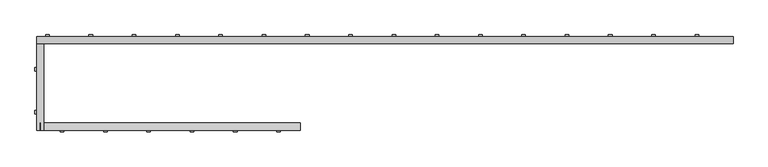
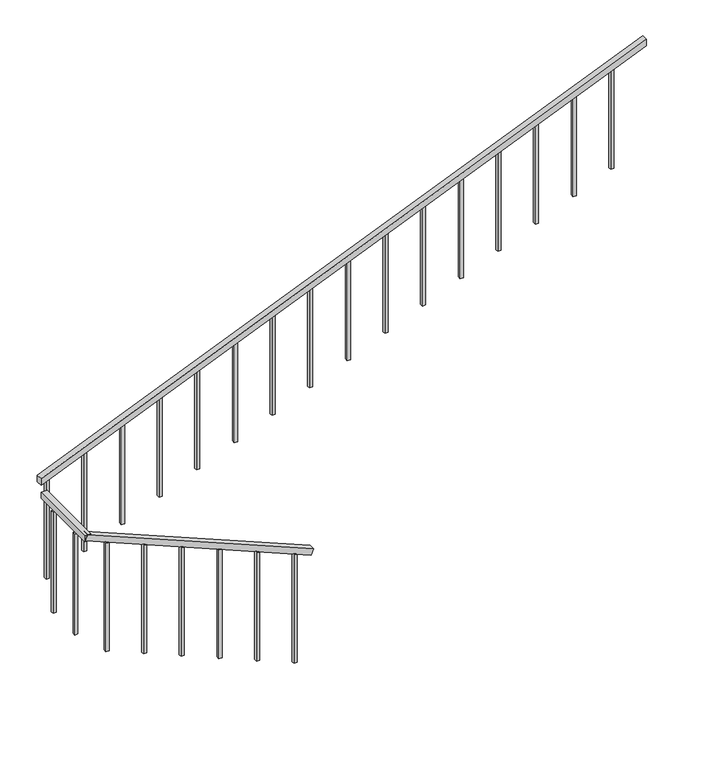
"""IFC4 building model written with IfcOpenShell, lengths in millimetres: railing geometry, ADSK_Стандартное_h 900 Поручень квадратный без направляющих."""

from ifc_helpers import new_model, si_unit, frame, origin, place, context, project, spatial, polyline, outline, extrude, source, transform, mapped, element, save


def railing_34ed4170(model_context):
    return source(origin(), model_context, "Body", "SweptSolid", [
        extrude(outline(polyline([(0.0, -50.0), (0.0, 0.0), (1950.0, 0.0), (1950.0, -50.0), (0.0, -50.0)])), frame((14808.0452287, 4259.838226, -2021.1538462), z_axis=(0.38461538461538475, 0.0, 0.923076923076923), x_axis=(-0.923076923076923, 0.0, 0.38461538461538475)), (0.0, 0.0, 1.0), 50.0),
        extrude(outline(polyline([(13051.8759979, 4259.838226), (13001.8759979, 4259.838226), (13001.8759979, 4860.0370105), (13051.8759979, 4860.0370105), (13051.8759979, 4259.838226)])), frame((0.0, 0.0, -1275.0), z_axis=(0.0, 0.0, 1.0), x_axis=(1.0, 0.0, 0.0)), (0.0, 0.0, 1.0), 50.0),
        extrude(outline(polyline([(-1110.5833333, 13001.8759979), (-1164.75, 13001.8759979), (845.8333333, 17827.2759979), (900.0, 17827.2759979), (-1110.5833333, 13001.8759979)])), frame((0.0, 4860.0370105, 0.0), z_axis=(0.0, 1.0, 0.0), x_axis=(0.0, 0.0, 1.0)), (0.0, 0.0, 1.0), 50.0),
        extrude(outline(polyline([(740.2088398, 17563.7772133), (-125.0, 17563.7772133), (-125.0, 17588.7772133), (750.6255064, 17588.7772133), (740.2088398, 17563.7772133)])), frame((0.0, 4897.5370105, 0.0), z_axis=(0.0, 1.0, 0.0), x_axis=(0.0, 0.0, 1.0)), (0.0, 0.0, 1.0), 25.0),
        extrude(outline(polyline([(615.2088398, 17263.7772133), (-250.0, 17263.7772133), (-250.0, 17288.7772133), (625.6255064, 17288.7772133), (615.2088398, 17263.7772133)])), frame((0.0, 4897.5370105, 0.0), z_axis=(0.0, 1.0, 0.0), x_axis=(0.0, 0.0, 1.0)), (0.0, 0.0, 1.0), 25.0),
        extrude(outline(polyline([(490.2088398, 16963.7772133), (-375.0, 16963.7772133), (-375.0, 16988.7772133), (500.6255064, 16988.7772133), (490.2088398, 16963.7772133)])), frame((0.0, 4897.5370105, 0.0), z_axis=(0.0, 1.0, 0.0), x_axis=(0.0, 0.0, 1.0)), (0.0, 0.0, 1.0), 25.0),
        extrude(outline(polyline([(365.2088398, 16663.7772133), (-500.0, 16663.7772133), (-500.0, 16688.7772133), (375.6255064, 16688.7772133), (365.2088398, 16663.7772133)])), frame((0.0, 4897.5370105, 0.0), z_axis=(0.0, 1.0, 0.0), x_axis=(0.0, 0.0, 1.0)), (0.0, 0.0, 1.0), 25.0),
        extrude(outline(polyline([(240.2088398, 16363.7772133), (-625.0, 16363.7772133), (-625.0, 16388.7772133), (250.6255064, 16388.7772133), (240.2088398, 16363.7772133)])), frame((0.0, 4897.5370105, 0.0), z_axis=(0.0, 1.0, 0.0), x_axis=(0.0, 0.0, 1.0)), (0.0, 0.0, 1.0), 25.0),
        extrude(outline(polyline([(115.2088398, 16063.7772133), (-750.0, 16063.7772133), (-750.0, 16088.7772133), (125.6255064, 16088.7772133), (115.2088398, 16063.7772133)])), frame((0.0, 4897.5370105, 0.0), z_axis=(0.0, 1.0, 0.0), x_axis=(0.0, 0.0, 1.0)), (0.0, 0.0, 1.0), 25.0),
        extrude(outline(polyline([(-9.7911602, 15763.7772133), (-875.0, 15763.7772133), (-875.0, 15788.7772133), (0.6255064, 15788.7772133), (-9.7911602, 15763.7772133)])), frame((0.0, 4897.5370105, 0.0), z_axis=(0.0, 1.0, 0.0), x_axis=(0.0, 0.0, 1.0)), (0.0, 0.0, 1.0), 25.0),
        extrude(outline(polyline([(-134.7911602, 15463.7772133), (-1000.0, 15463.7772133), (-1000.0, 15488.7772133), (-124.3744936, 15488.7772133), (-134.7911602, 15463.7772133)])), frame((0.0, 4897.5370105, 0.0), z_axis=(0.0, 1.0, 0.0), x_axis=(0.0, 0.0, 1.0)), (0.0, 0.0, 1.0), 25.0),
        extrude(outline(polyline([(-259.7911602, 15163.7772133), (-1125.0, 15163.7772133), (-1125.0, 15188.7772133), (-249.3744936, 15188.7772133), (-259.7911602, 15163.7772133)])), frame((0.0, 4897.5370105, 0.0), z_axis=(0.0, 1.0, 0.0), x_axis=(0.0, 0.0, 1.0)), (0.0, 0.0, 1.0), 25.0),
        extrude(outline(polyline([(-384.7911602, 14863.7772133), (-1250.0, 14863.7772133), (-1250.0, 14888.7772133), (-374.3744936, 14888.7772133), (-384.7911602, 14863.7772133)])), frame((0.0, 4897.5370105, 0.0), z_axis=(0.0, 1.0, 0.0), x_axis=(0.0, 0.0, 1.0)), (0.0, 0.0, 1.0), 25.0),
        extrude(outline(polyline([(-509.7911602, 14563.7772133), (-1375.0, 14563.7772133), (-1375.0, 14588.7772133), (-499.3744936, 14588.7772133), (-509.7911602, 14563.7772133)])), frame((0.0, 4897.5370105, 0.0), z_axis=(0.0, 1.0, 0.0), x_axis=(0.0, 0.0, 1.0)), (0.0, 0.0, 1.0), 25.0),
        extrude(outline(polyline([(-634.7911602, 14263.7772133), (-1500.0, 14263.7772133), (-1500.0, 14288.7772133), (-624.3744936, 14288.7772133), (-634.7911602, 14263.7772133)])), frame((0.0, 4897.5370105, 0.0), z_axis=(0.0, 1.0, 0.0), x_axis=(0.0, 0.0, 1.0)), (0.0, 0.0, 1.0), 25.0),
        extrude(outline(polyline([(-759.7911602, 13963.7772133), (-1625.0, 13963.7772133), (-1625.0, 13988.7772133), (-749.3744936, 13988.7772133), (-759.7911602, 13963.7772133)])), frame((0.0, 4897.5370105, 0.0), z_axis=(0.0, 1.0, 0.0), x_axis=(0.0, 0.0, 1.0)), (0.0, 0.0, 1.0), 25.0),
        extrude(outline(polyline([(-884.7911602, 13663.7772133), (-1750.0, 13663.7772133), (-1750.0, 13688.7772133), (-874.3744936, 13688.7772133), (-884.7911602, 13663.7772133)])), frame((0.0, 4897.5370105, 0.0), z_axis=(0.0, 1.0, 0.0), x_axis=(0.0, 0.0, 1.0)), (0.0, 0.0, 1.0), 25.0),
        extrude(outline(polyline([(-1009.7911602, 13363.7772133), (-1875.0, 13363.7772133), (-1875.0, 13388.7772133), (-999.3744936, 13388.7772133), (-1009.7911602, 13363.7772133)])), frame((0.0, 4897.5370105, 0.0), z_axis=(0.0, 1.0, 0.0), x_axis=(0.0, 0.0, 1.0)), (0.0, 0.0, 1.0), 25.0),
        extrude(outline(polyline([(-1134.7911602, 13063.7772133), (-2000.0, 13063.7772133), (-2000.0, 13088.7772133), (-1124.3744936, 13088.7772133), (-1134.7911602, 13063.7772133)])), frame((0.0, 4897.5370105, 0.0), z_axis=(0.0, 1.0, 0.0), x_axis=(0.0, 0.0, 1.0)), (0.0, 0.0, 1.0), 25.0),
        extrude(outline(polyline([(13014.3759979, 4671.938226), (12989.3759979, 4671.938226), (12989.3759979, 4696.938226), (13014.3759979, 4696.938226), (13014.3759979, 4671.938226)])), frame((0.0, 0.0, -2125.0), z_axis=(0.0, 0.0, 1.0), x_axis=(1.0, 0.0, 0.0)), (0.0, 0.0, 1.0), 850.0),
        extrude(outline(polyline([(13014.3759979, 4371.938226), (12989.3759979, 4371.938226), (12989.3759979, 4396.938226), (13014.3759979, 4396.938226), (13014.3759979, 4371.938226)])), frame((0.0, 0.0, -2125.0), z_axis=(0.0, 0.0, 1.0), x_axis=(1.0, 0.0, 0.0)), (0.0, 0.0, 1.0), 850.0),
        extrude(outline(polyline([(-2250.0, 13189.7759979), (-1342.7083333, 13189.7759979), (-1332.2916667, 13164.7759979), (-2250.0, 13164.7759979), (-2250.0, 13189.7759979)])), frame((0.0, 4247.338226, 0.0), z_axis=(0.0, 1.0, 0.0), x_axis=(0.0, 0.0, 1.0)), (0.0, 0.0, 1.0), 25.0),
        extrude(outline(polyline([(-2375.0, 13489.7759979), (-1467.7083333, 13489.7759979), (-1457.2916667, 13464.7759979), (-2375.0, 13464.7759979), (-2375.0, 13489.7759979)])), frame((0.0, 4247.338226, 0.0), z_axis=(0.0, 1.0, 0.0), x_axis=(0.0, 0.0, 1.0)), (0.0, 0.0, 1.0), 25.0),
        extrude(outline(polyline([(-2500.0, 13789.7759979), (-1592.7083333, 13789.7759979), (-1582.2916667, 13764.7759979), (-2500.0, 13764.7759979), (-2500.0, 13789.7759979)])), frame((0.0, 4247.338226, 0.0), z_axis=(0.0, 1.0, 0.0), x_axis=(0.0, 0.0, 1.0)), (0.0, 0.0, 1.0), 25.0),
        extrude(outline(polyline([(-2625.0, 14089.7759979), (-1717.7083333, 14089.7759979), (-1707.2916667, 14064.7759979), (-2625.0, 14064.7759979), (-2625.0, 14089.7759979)])), frame((0.0, 4247.338226, 0.0), z_axis=(0.0, 1.0, 0.0), x_axis=(0.0, 0.0, 1.0)), (0.0, 0.0, 1.0), 25.0),
        extrude(outline(polyline([(-2750.0, 14389.7759979), (-1842.7083333, 14389.7759979), (-1832.2916667, 14364.7759979), (-2750.0, 14364.7759979), (-2750.0, 14389.7759979)])), frame((0.0, 4247.338226, 0.0), z_axis=(0.0, 1.0, 0.0), x_axis=(0.0, 0.0, 1.0)), (0.0, 0.0, 1.0), 25.0),
        extrude(outline(polyline([(-2875.0, 14689.7759979), (-1967.7083333, 14689.7759979), (-1957.2916667, 14664.7759979), (-2875.0, 14664.7759979), (-2875.0, 14689.7759979)])), frame((0.0, 4247.338226, 0.0), z_axis=(0.0, 1.0, 0.0), x_axis=(0.0, 0.0, 1.0)), (0.0, 0.0, 1.0), 25.0),
    ])


if __name__ == "__main__":
    model = new_model("IFC4")
    model_context = context("Model", 3, world=origin())
    ifc_project = project(units=[si_unit("LENGTHUNIT", "METRE", prefix="MILLI")], contexts=[model_context])
    site = spatial("IfcSite", under=ifc_project)
    building = spatial("IfcBuilding", under=site)
    placement = place(None, origin())
    railing_shape = railing_34ed4170(model_context)
    element("IfcRailing", 1, ObjectType="ADSK_Стандартное_h 900 Поручень квадратный без направляющих", at=placement, inside=building, context=model_context, shape_type="MappedRepresentation", body=[
        mapped(railing_shape, transform((0.0, 0.0, 0.0), x_axis=(1.0, 0.0, 0.0), y_axis=(0.0, 1.0, 0.0), z_axis=(0.0, 0.0, 1.0))),
    ])
    save(model, "model.ifc")
